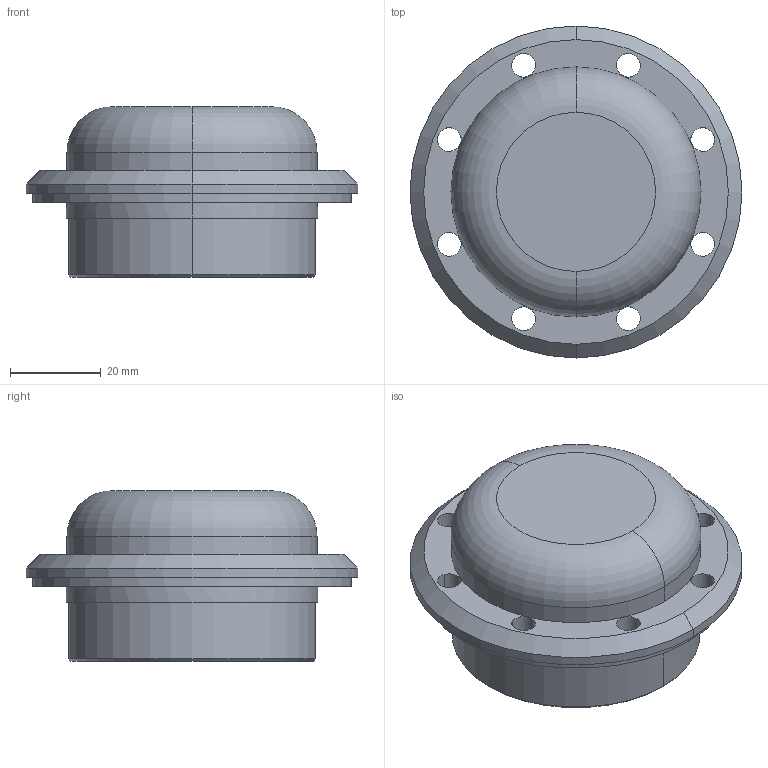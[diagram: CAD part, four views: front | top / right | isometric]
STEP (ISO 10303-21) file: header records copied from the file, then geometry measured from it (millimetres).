
FILE_DESCRIPTION(/* description */ ('VariCAD 2010-3.03 AP-214'),/* implementation_level */ '2;1');
FILE_NAME(/* name */ '0353-11-132',/* time_stamp */ '2011-03-03T14:16:01-07:00',/* author */ (''),/* organization */ (''),/* preprocessor_version */ 'ST-DEVELOPER v12',/* originating_system */ 'VariCAD 2010-3.03; kernel version (20100102)',/* authorisation */ '');
FILE_SCHEMA (('AUTOMOTIVE_DESIGN'));
Length unit declared in the file: millimetre
Products named in the file (1): Part
Bounding box: 73 x 73 x 37.5 mm (x, y, z)
Volume: 36138.3 mm3; surface area: 19492.4 mm2
Topology: 1 solids, 1 shells, 63 faces, 168 edges, 104 vertices
Faces by surface type: cylinder 36, plane 19, cone 6, torus 2
Entity records: 2091 total; most frequent: DIRECTION 408, CARTESIAN_POINT 377, ORIENTED_EDGE 336, AXIS2_PLACEMENT_3D 183, EDGE_CURVE 168, CIRCLE 118, VERTEX_POINT 104, EDGE_LOOP 76
